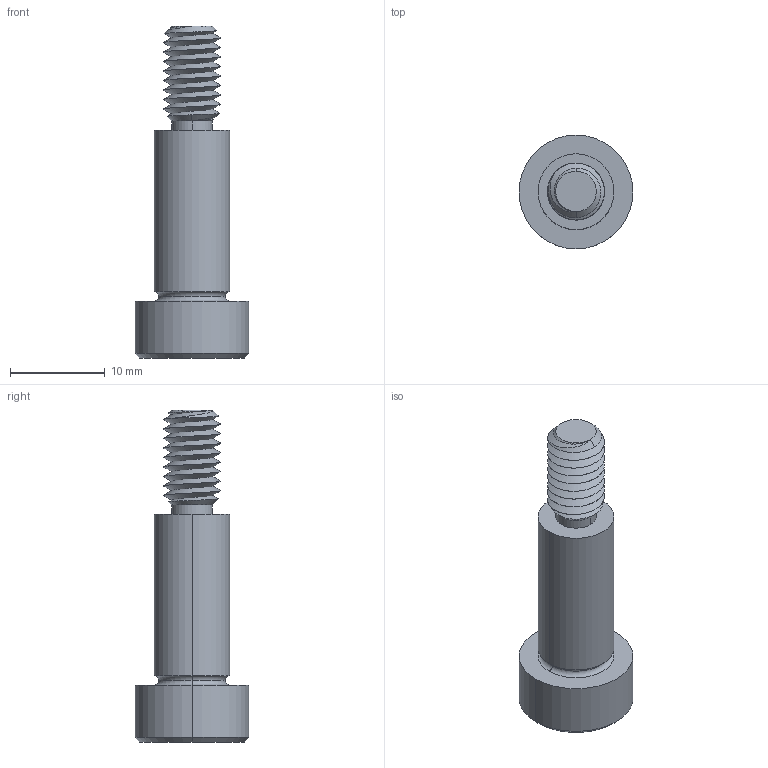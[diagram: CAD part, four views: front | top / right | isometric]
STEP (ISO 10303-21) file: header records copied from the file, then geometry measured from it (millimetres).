
FILE_DESCRIPTION (( 'STEP AP203' ), '1' );
FILE_NAME ('P0130.080-018-B2.step', '2021-11-09T21:37:56', ( '' ), ( '' ), 'SwSTEP 2.0', 'SolidWorks 2019', '' );
FILE_SCHEMA (( 'CONFIG_CONTROL_DESIGN' ));
Length unit declared in the file: millimetre
Products named in the file (1): P0130.080-018-B2
Bounding box: 12 x 12 x 35 mm (x, y, z)
Volume: 1731.5 mm3; surface area: 1285.2 mm2
Topology: 1 solids, 1 shells, 60 faces, 142 edges, 85 vertices
Faces by surface type: cylinder 24, plane 16, cone 14, torus 4, bspline 2
Entity records: 4245 total; most frequent: CARTESIAN_POINT 2899, ORIENTED_EDGE 280, DIRECTION 247, EDGE_CURVE 140, AXIS2_PLACEMENT_3D 99, VERTEX_POINT 85, EDGE_LOOP 63, ADVANCED_FACE 60
